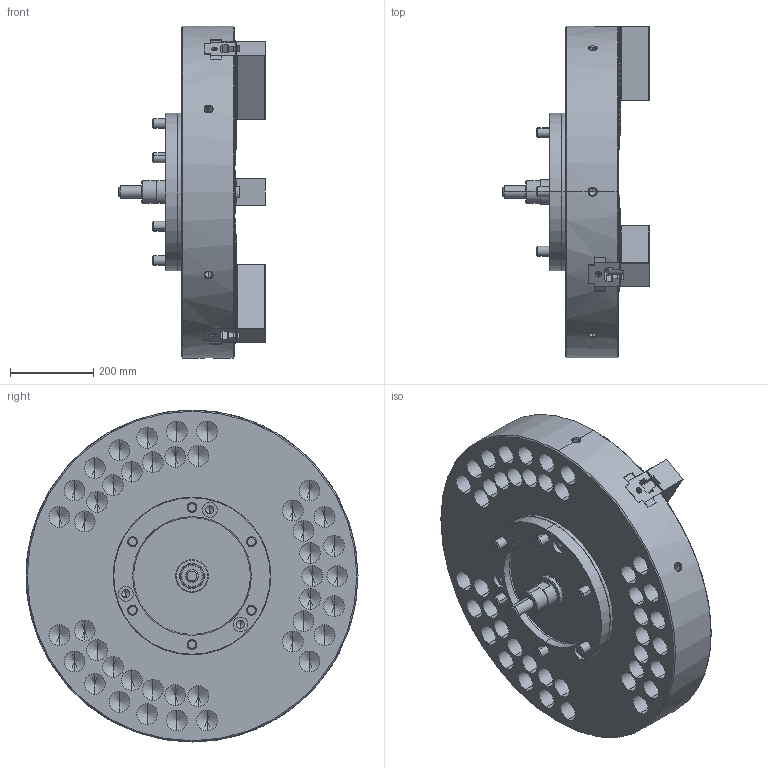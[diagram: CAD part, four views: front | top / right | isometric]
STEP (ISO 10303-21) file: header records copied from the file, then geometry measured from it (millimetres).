
FILE_DESCRIPTION (( 'STEP AP214' ), '1' );
FILE_NAME ('NV32C15_UC.STEP', '2019-12-19T07:37:45', ( '' ), ( '' ), 'SwSTEP 2.0', 'SolidWorks 2017', '' );
FILE_SCHEMA (( 'AUTOMOTIVE_DESIGN' ));
Length unit declared in the file: millimetre
Products named in the file (5): 結合; 0030120060; 61P418538_俿僫僢僩; P32262_ソフトジョー; NV32C15_UC
Assembly tree (16 placements, depth 2):
  NV32C15_UC
    P32262_ソフトジョー  x3
    61P418538_俿僫僢僩  x6
    0030120060  x6
    結合
Bounding box: 352 x 800 x 800 mm (x, y, z)
Volume: 63461564.5 mm3; surface area: 2340340.6 mm2
Topology: 16 solids, 16 shells, 5962 faces, 16531 edges, 10597 vertices
Faces by surface type: plane 4870, cylinder 509, cone 469, torus 108, sphere 6
Entity records: 155658 total; most frequent: CARTESIAN_POINT 30433, ORIENTED_EDGE 26862, DIRECTION 24416, EDGE_CURVE 13431, LINE 11470, VECTOR 11470, VERTEX_POINT 8708, AXIS2_PLACEMENT_3D 6473
